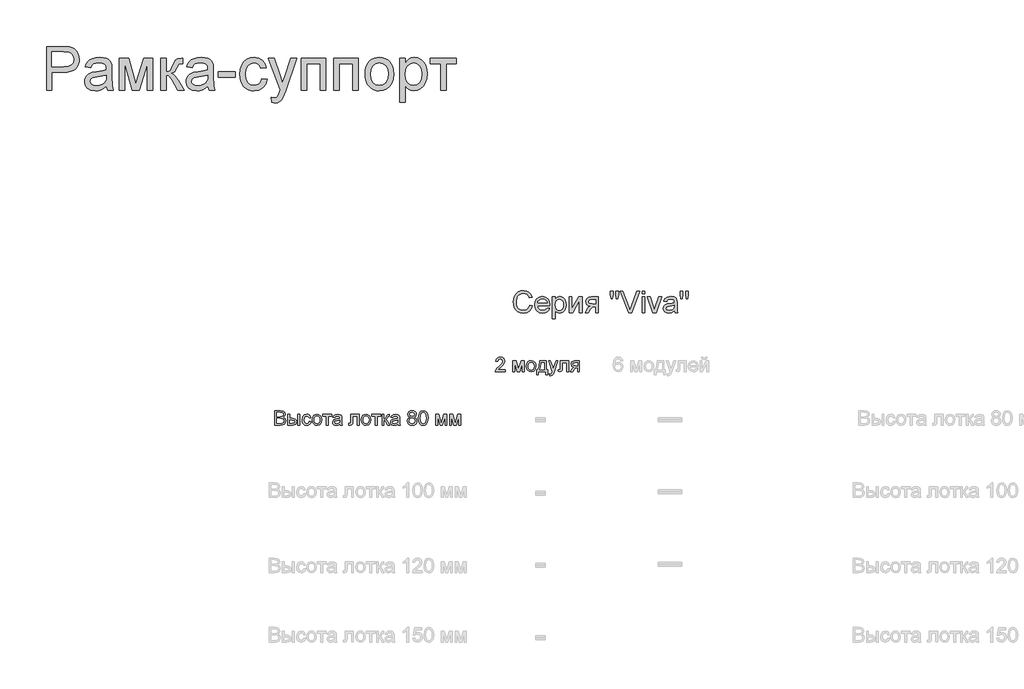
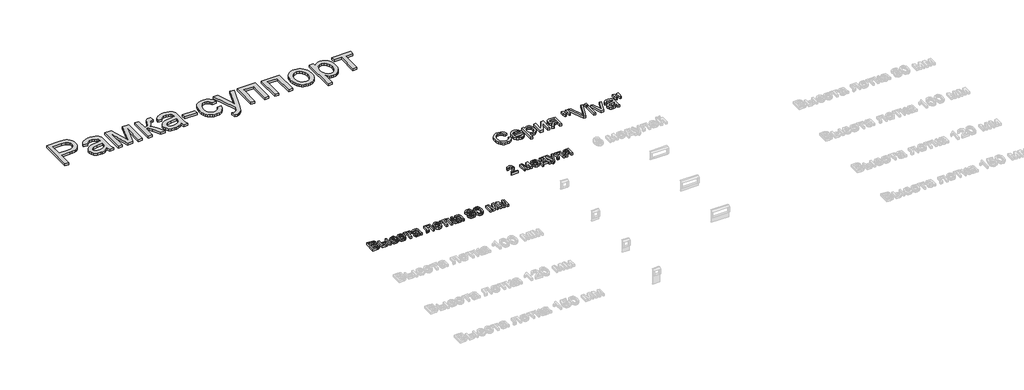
# One storey, part 9 of 28: 4 proxies.
"""IFC4 building model written with IfcOpenShell, lengths in millimetres."""

import ifcopenshell
import ifcopenshell.guid

model = None  # the IFC model being written
_history = None  # IfcOwnerHistory: only IFC2X3 demands one
_inside = {}  # id of a spatial element -> (the spatial element, [elements in it])
_under = {}  # id of a project, library or spatial element -> (it, [spatial elements below it])
_declared = {}  # id of a project -> (the project, [libraries it declares])
_typed = {}  # id of a type object -> (the type object, [elements of that type])
_made_of = {}  # id of a material, layer set ... -> (it, [elements and type objects made of it])


def new_model(schema):
    """Start an empty IFC model of exactly this schema.

    Asked for "IFC4X3", IfcOpenShell would pick the latest addendum, in which some entities
    have other attributes; the version numbers below select the first issue.
    IFC2X3 requires an IfcOwnerHistory on every rooted entity: one is made here for all.
    """
    global model, _history
    if schema == "IFC4X3":
        model = ifcopenshell.file(schema_version=(4, 3, 0, 0))
    else:
        model = ifcopenshell.file(schema=schema)
    _inside.clear()
    _under.clear()
    _declared.clear()
    _typed.clear()
    _made_of.clear()
    _history = None
    if model.schema == "IFC2X3":
        org = make("IfcOrganization", Name="unknown")
        user = make(
            "IfcPersonAndOrganization",
            ThePerson=make("IfcPerson", FamilyName="unknown"),
            TheOrganization=org,
        )
        app = make(
            "IfcApplication",
            ApplicationDeveloper=org,
            Version="unknown",
            ApplicationFullName="unknown",
            ApplicationIdentifier="unknown",
        )
        _history = make(
            "IfcOwnerHistory",
            OwningUser=user,
            OwningApplication=app,
            ChangeAction="ADDED",
            CreationDate=0,
        )
    return model


def make(cls, **values):
    """One entity of the class cls with the attributes given. An attribute that is None is left unset."""
    return model.create_entity(
        cls, **{name: value for name, value in values.items() if value is not None}
    )


def rooted(cls, **values):
    """An entity with a GlobalId (a new one), such as an element, a storey or a relation."""
    return make(cls, GlobalId=ifcopenshell.guid.new(), OwnerHistory=_history, **values)


def si_unit(unit_type, name, prefix=None):
    """IfcSIUnit, for example si_unit("LENGTHUNIT", "METRE", prefix="MILLI")."""
    return make("IfcSIUnit", UnitType=unit_type, Prefix=prefix, Name=name)


def assignment(units):
    """IfcUnitAssignment: the units of a project."""
    return None if units is None else make("IfcUnitAssignment", Units=units)


def point(xyz):
    """IfcCartesianPoint."""
    return None if xyz is None else make("IfcCartesianPoint", Coordinates=xyz)


def direction(xyz):
    """IfcDirection."""
    return None if xyz is None else make("IfcDirection", DirectionRatios=xyz)


def frame(location, z_axis=None, x_axis=None):
    """IfcAxis2Placement3D, a coordinate frame: its origin and axes. An axis left out is left unset."""
    return make(
        "IfcAxis2Placement3D",
        Location=point(location),
        Axis=direction(z_axis),
        RefDirection=direction(x_axis),
    )


def origin():
    """The frame at (0, 0, 0) with its axes left unset."""
    return frame((0.0, 0.0, 0.0))


def origin_with_axes():
    """The frame at (0, 0, 0) with the z axis (0, 0, 1) and the x axis (1, 0, 0) written out."""
    return frame((0.0, 0.0, 0.0), z_axis=(0.0, 0.0, 1.0), x_axis=(1.0, 0.0, 0.0))


def place(relative_to, where):
    """IfcLocalPlacement: puts the frame where relative to a parent placement (None: the world)."""
    return make(
        "IfcLocalPlacement", PlacementRelTo=relative_to, RelativePlacement=where
    )


def context(
    kind, dimensions, precision=None, world=None, true_north=None, identifier=None
):
    """IfcGeometricRepresentationContext, for example the 3D "Model" context."""
    return make(
        "IfcGeometricRepresentationContext",
        ContextIdentifier=identifier,
        ContextType=kind,
        CoordinateSpaceDimension=dimensions,
        Precision=precision,
        WorldCoordinateSystem=world,
        TrueNorth=true_north,
    )


def project(units=None, contexts=None):
    """IfcProject with its units and contexts."""
    return rooted(
        "IfcProject",
        Name="project",
        RepresentationContexts=contexts,
        UnitsInContext=assignment(units),
    )


def spatial(cls, under=None, at=None, **own):
    """A site, building, storey or space (cls), placed at a placement, below another one or the project."""
    s = rooted(cls, ObjectPlacement=at, **own)
    if under is not None:
        _under.setdefault(under.id(), (under, []))[1].append(s)
    return s


def polyline(points):
    """IfcPolyline through the points."""
    return make("IfcPolyline", Points=[point(p) for p in points])


def outline(outer, holes=None, kind="AREA"):
    """IfcArbitraryClosedProfileDef: a profile drawn as a closed curve; with holes, ...WithVoids."""
    if holes is None:
        return make("IfcArbitraryClosedProfileDef", ProfileType=kind, OuterCurve=outer)
    return make(
        "IfcArbitraryProfileDefWithVoids",
        ProfileType=kind,
        OuterCurve=outer,
        InnerCurves=holes,
    )


def extrude(swept, where, along, depth):
    """IfcExtrudedAreaSolid: the profile swept, set in the frame where, extruded along a direction by depth."""
    return make(
        "IfcExtrudedAreaSolid",
        SweptArea=swept,
        Position=where,
        ExtrudedDirection=direction(along),
        Depth=depth,
    )


def shape(context_of_items, identifier, shape_type, items):
    """IfcShapeRepresentation: the items that make up one representation, for example the "Body"."""
    return make(
        "IfcShapeRepresentation",
        ContextOfItems=context_of_items,
        RepresentationIdentifier=identifier,
        RepresentationType=shape_type,
        Items=items,
    )


def made_of(thing, what):
    """Note that an element or type object is made of a material, layer set ...; save() writes the relation."""
    if what is not None:
        _made_of.setdefault(what.id(), (what, []))[1].append(thing)
    return thing


def element(
    cls,
    number,
    at=None,
    inside=None,
    cuts=None,
    type_object=None,
    material=None,
    context=None,
    identifier="Body",
    shape_type=None,
    held_by="IfcProductDefinitionShape",
    body=None,
    shapes=None,
    **own,
):
    """One element of the class cls, such as IfcWall. Its Tag is "e" and its number.

    at: its placement. inside: the storey or other place that contains it. cuts: it is an
    opening in that element (IfcRelVoidsElement). A single representation is given by context,
    identifier, shape_type and body (its items); several are given by shapes. held_by: the class
    of the entity that holds the representations. save() writes the other relations.
    """
    e = rooted(cls, Tag="e%d" % number, ObjectPlacement=at, **own)
    if body is not None:
        shapes = [shape(context, identifier, shape_type, body)]
    if shapes is not None:
        e.Representation = make(held_by, Representations=shapes)
    if inside is not None:
        _inside.setdefault(inside.id(), (inside, []))[1].append(e)
    if cuts is not None:
        rooted(
            "IfcRelVoidsElement", RelatingBuildingElement=cuts, RelatedOpeningElement=e
        )
    if type_object is not None:
        _typed.setdefault(type_object.id(), (type_object, []))[1].append(e)
    return made_of(e, material)


def aggregate(whole, parts):
    """IfcRelAggregates: a whole, such as a stair, and the parts it consists of."""
    return rooted("IfcRelAggregates", RelatingObject=whole, RelatedObjects=parts)


def save(model, path):
    """Write the relations noted so far, then the file.

    IfcRelAggregates (storeys below a building ...), IfcRelContainedInSpatialStructure (elements
    in a storey), IfcRelDefinesByType, IfcRelAssociatesMaterial and IfcRelDeclares: one each for
    every whole, place, type object, material and project.
    """
    for whole, parts in _under.values():
        aggregate(whole, parts)
    for where, things in _inside.values():
        rooted(
            "IfcRelContainedInSpatialStructure",
            RelatedElements=things,
            RelatingStructure=where,
        )
    for kind, things in _typed.values():
        rooted("IfcRelDefinesByType", RelatedObjects=things, RelatingType=kind)
    for what, things in _made_of.values():
        rooted("IfcRelAssociatesMaterial", RelatedObjects=things, RelatingMaterial=what)
    for by, libraries in _declared.values():
        rooted("IfcRelDeclares", RelatingContext=by, RelatedDefinitions=libraries)
    model.write(path)


model = new_model("IFC4")

# Units and contexts
model_context = context("Model", 3, world=origin())
ifc_project = project(units=[si_unit("LENGTHUNIT", "METRE", prefix="MILLI")], contexts=[model_context])

# Site, building, storey
site = spatial("IfcSite", under=ifc_project)
building = spatial("IfcBuilding", under=site)
storey = spatial("IfcBuildingStorey", under=building, Name="Этаж 01", Elevation=0.0)

# Proxies
placement = place(None, origin())
element("IfcBuildingElementProxy", 1, Name="300 мм Arial", ObjectType="300 мм Arial", at=placement, inside=storey, context=model_context, shape_type="SweptSolid", body=[
    extrude(outline(polyline([(296.4597567, -9649.131136), (296.4597567, -9347.7622056), (408.1487305, -9347.7622056), (453.1774867, -9350.6316851), (473.2546466, -9355.9935652), (489.7817452, -9364.7215655), (503.0898764, -9377.2111593), (513.5101339, -9393.8578196), (520.2423744, -9413.4935211), (522.4864546, -9434.9502384), (520.9712406, -9453.4501043), (516.4255987, -9470.4692451), (508.8495289, -9486.0076608), (498.2430311, -9500.0653516), (483.6818019, -9511.7180138), (464.2415377, -9520.0413439), (439.9222385, -9525.035342), (410.7239044, -9526.700008), (334.130873, -9526.700008), (334.130873, -9649.131136), (296.4597567, -9649.131136)]), holes=[polyline([(334.130873, -9489.0288917), (412.9311964, -9489.0288917), (446.3348816, -9485.570801), (468.4078013, -9475.1965287), (480.713454, -9458.5498684), (484.8153383, -9436.2746136), (482.3965141, -9419.3520418), (475.1400418, -9405.0782204), (463.9472321, -9394.3360662), (449.7193959, -9388.0084958), (412.0482796, -9385.4333219), (334.130873, -9385.4333219), (334.130873, -9489.0288917)])]), origin_with_axes(), (0.0, 0.0, 1.0), 20.0),
    extrude(outline(polyline([(710.8420361, -9620.8777988), (692.8434095, -9636.3104485), (674.311354, -9646.4088092), (654.8228053, -9651.9822215), (633.9546991, -9653.8400256), (602.4731974, -9649.3702593), (579.2506464, -9635.9609606), (564.9308398, -9615.5986922), (560.1575709, -9590.2700168), (561.9601926, -9574.6534261), (567.368058, -9560.4715752), (575.7097822, -9548.3314693), (586.3139807, -9538.8401139), (612.6911198, -9526.4792788), (645.2854646, -9520.8138961), (683.8027094, -9514.8542078), (710.6213069, -9507.8644499), (710.8420361, -9499.4767404), (708.248468, -9482.6645332), (700.4677638, -9471.6648615), (683.0669455, -9463.4978812), (658.823522, -9460.7755545), (636.3827203, -9462.5873733), (620.7109473, -9468.0228298), (610.0239753, -9478.0752053), (602.5375767, -9493.7377813), (564.8664604, -9489.0288917), (571.4055629, -9468.4275), (581.1636328, -9452.2406922), (595.0511781, -9439.8614631), (613.9787068, -9430.6828073), (637.1276813, -9424.9990305), (663.6795643, -9423.1044382), (689.1461954, -9424.7783013), (709.3337199, -9429.7998905), (724.5548375, -9437.3506684), (735.1222478, -9446.6120977), (742.1303998, -9458.0624248), (746.6737424, -9472.1798963), (748.5131524, -9505.1421231), (748.5131524, -9552.0102893), (750.4261388, -9617.4564962), (757.9309315, -9649.131136), (720.2598152, -9649.131136), (710.8420361, -9620.8777988)]), holes=[polyline([(710.8420361, -9545.5355662), (650.0679305, -9557.0870608), (617.6575267, -9563.1939019), (602.9790351, -9573.1267158), (597.8286872, -9587.6212664), (600.6337874, -9598.8232732), (609.049088, -9608.001929), (622.8906481, -9614.1271642), (641.9745266, -9616.1689092), (662.2080363, -9613.915632), (680.0871013, -9607.1558004), (694.5816519, -9597.1953953), (704.6616186, -9585.3403981), (709.1313848, -9573.1267158), (710.6213069, -9556.204144), (710.8420361, -9545.5355662)])]), origin_with_axes(), (0.0, 0.0, 1.0), 20.0),
    extrude(outline(polyline([(800.3109373, -9427.8133277), (865.1317449, -9427.8133277), (915.0901198, -9604.9852966), (968.9480439, -9427.8133277), (1031.0465247, -9427.8133277), (1031.0465247, -9649.131136), (993.3754084, -9649.131136), (993.3754084, -9470.9290976), (939.2231787, -9649.131136), (889.7798385, -9649.131136), (837.9820536, -9462.3942353), (837.9820536, -9649.131136), (800.3109373, -9649.131136), (800.3109373, -9427.8133277)])), origin_with_axes(), (0.0, 0.0, 1.0), 20.0),
    extrude(outline(polyline([(1087.5531992, -9427.8133277), (1125.2243155, -9427.8133277), (1125.2243155, -9521.9911185), (1140.5466006, -9520.2988613), (1150.4610203, -9515.2220898), (1159.2350059, -9501.9783379), (1171.1359885, -9475.7851399), (1188.3160776, -9441.7560553), (1203.4728158, -9430.6828073), (1231.0271773, -9427.8133277), (1238.2376644, -9427.8133277), (1238.2376644, -9465.7051732), (1228.0841213, -9465.484444), (1209.6900216, -9469.4575696), (1196.7405753, -9494.252816), (1181.5470489, -9521.0714135), (1160.2466814, -9534.2048007), (1172.1844521, -9539.5069), (1184.0118583, -9548.8648982), (1207.3355768, -9579.7485917), (1247.6554435, -9649.131136), (1204.8339792, -9649.131136), (1165.3234529, -9581.2201197), (1145.4578252, -9552.4885359), (1136.1688048, -9547.2738086), (1125.2243155, -9545.5355662), (1125.2243155, -9649.131136), (1087.5531992, -9649.131136), (1087.5531992, -9427.8133277)])), origin_with_axes(), (0.0, 0.0, 1.0), 20.0),
    extrude(outline(polyline([(1412.4665773, -9620.8777988), (1394.4679507, -9636.3104485), (1375.9358952, -9646.4088092), (1356.4473465, -9651.9822215), (1335.5792403, -9653.8400256), (1304.0977386, -9649.3702593), (1280.8751876, -9635.9609606), (1266.555381, -9615.5986922), (1261.7821121, -9590.2700168), (1263.5847338, -9574.6534261), (1268.9925992, -9560.4715752), (1277.3343234, -9548.3314693), (1287.9385219, -9538.8401139), (1314.315661, -9526.4792788), (1346.9100058, -9520.8138961), (1385.4272507, -9514.8542078), (1412.2458481, -9507.8644499), (1412.4665773, -9499.4767404), (1409.8730092, -9482.6645332), (1402.092305, -9471.6648615), (1384.6914867, -9463.4978812), (1360.4480632, -9460.7755545), (1338.0072615, -9462.5873733), (1322.3354885, -9468.0228298), (1311.6485165, -9478.0752053), (1304.1621179, -9493.7377813), (1266.4910016, -9489.0288917), (1273.0301041, -9468.4275), (1282.788174, -9452.2406922), (1296.6757193, -9439.8614631), (1315.603248, -9430.6828073), (1338.7522225, -9424.9990305), (1365.3041055, -9423.1044382), (1390.7707366, -9424.7783013), (1410.9582611, -9429.7998905), (1426.1793787, -9437.3506684), (1436.746789, -9446.6120977), (1443.754941, -9458.0624248), (1448.2982836, -9472.1798963), (1450.1376936, -9505.1421231), (1450.1376936, -9552.0102893), (1452.05068, -9617.4564962), (1459.5554727, -9649.131136), (1421.8843564, -9649.131136), (1412.4665773, -9620.8777988)]), holes=[polyline([(1412.4665773, -9545.5355662), (1351.6924717, -9557.0870608), (1319.2820679, -9563.1939019), (1304.6035763, -9573.1267158), (1299.4532284, -9587.6212664), (1302.2583286, -9598.8232732), (1310.6736292, -9608.001929), (1324.5151893, -9614.1271642), (1343.5990678, -9616.1689092), (1363.8325775, -9613.915632), (1381.7116425, -9607.1558004), (1396.2061931, -9597.1953953), (1406.2861598, -9585.3403981), (1410.755926, -9573.1267158), (1412.2458481, -9556.204144), (1412.4665773, -9545.5355662)])]), origin_with_axes(), (0.0, 0.0, 1.0), 20.0),
    extrude(outline(polyline([(1483.0999204, -9559.6622348), (1483.0999204, -9521.9911185), (1600.8221588, -9521.9911185), (1600.8221588, -9559.6622348), (1483.0999204, -9559.6622348)])), origin_with_axes(), (0.0, 0.0, 1.0), 20.0),
    extrude(outline(polyline([(1784.4688508, -9569.0800139), (1822.1399671, -9573.7889034), (1811.6369362, -9607.2937561), (1791.9000671, -9632.6132344), (1764.7871641, -9648.5333278), (1732.1560311, -9653.8400256), (1711.0281083, -9651.9891193), (1692.0844848, -9646.4364004), (1675.3251606, -9637.181869), (1660.7501358, -9624.2255249), (1648.9526201, -9607.8110902), (1640.5258232, -9588.1822865), (1635.469745, -9565.3391138), (1633.7843856, -9539.2815723), (1636.6630622, -9505.7583254), (1645.299092, -9476.7048449), (1659.8304309, -9453.2431706), (1680.3950344, -9436.4953428), (1704.9971428, -9426.4521643), (1731.6409963, -9423.1044382), (1763.4719859, -9427.7029631), (1788.920223, -9441.4985379), (1807.176367, -9463.7553986), (1817.4310776, -9493.7377813), (1779.7599613, -9498.4466708), (1772.9265532, -9482.0115427), (1762.2855665, -9470.2301218), (1748.4256123, -9463.1391963), (1731.9353019, -9460.7755545), (1707.5907109, -9465.4292617), (1688.2677091, -9479.3903834), (1675.6585537, -9503.4130777), (1671.4555019, -9538.2515027), (1675.5665832, -9573.5589772), (1687.8998271, -9597.6644449), (1706.873341, -9611.5427932), (1730.9052323, -9616.1689092), (1750.4121751, -9613.2810356), (1766.4058449, -9604.6174146), (1778.040113, -9589.9573171), (1784.4688508, -9569.0800139)])), origin_with_axes(), (0.0, 0.0, 1.0), 20.0),
    extrude(outline(polyline([(1855.1021939, -9733.8911477), (1850.3933044, -9697.617983), (1869.5231681, -9700.9289209), (1887.4022331, -9696.7718544), (1898.3651165, -9685.1835715), (1908.6658124, -9657.4452691), (1911.6088684, -9648.3217956), (1831.5577462, -9427.8133277), (1871.2890017, -9427.8133277), (1913.7425839, -9550.6859141), (1928.5314401, -9599.8349487), (1943.3202963, -9556.4248732), (1986.951101, -9427.8133277), (2026.3880508, -9427.8133277), (1949.3535611, -9654.4286367), (1929.3407805, -9703.5776713), (1919.095267, -9719.2678384), (1907.48859, -9730.1387514), (1894.0057149, -9736.4847158), (1878.1316068, -9738.6000372), (1855.1021939, -9733.8911477)])), origin_with_axes(), (0.0, 0.0, 1.0), 20.0),
    extrude(outline(polyline([(2057.584444, -9427.8133277), (2227.1044674, -9427.8133277), (2227.1044674, -9649.131136), (2189.4333511, -9649.131136), (2189.4333511, -9465.484444), (2095.2555603, -9465.484444), (2095.2555603, -9649.131136), (2057.584444, -9649.131136), (2057.584444, -9427.8133277)])), origin_with_axes(), (0.0, 0.0, 1.0), 20.0),
    extrude(outline(polyline([(2283.6111419, -9427.8133277), (2453.1311653, -9427.8133277), (2453.1311653, -9649.131136), (2415.4600489, -9649.131136), (2415.4600489, -9465.484444), (2321.2822582, -9465.484444), (2321.2822582, -9649.131136), (2283.6111419, -9649.131136), (2283.6111419, -9427.8133277)])), origin_with_axes(), (0.0, 0.0, 1.0), 20.0),
    extrude(outline(polyline([(2500.2200606, -9538.4722319), (2502.2572072, -9509.8096259), (2508.3686468, -9485.1109485), (2518.5543796, -9464.3761995), (2532.8144054, -9447.6053791), (2547.1710003, -9436.8862174), (2563.0175172, -9429.2296734), (2580.3539562, -9424.635747), (2599.1803173, -9423.1044382), (2619.9633508, -9424.96914), (2638.755223, -9430.5632456), (2655.5559338, -9439.8867549), (2670.3654834, -9452.939668), (2682.4527062, -9469.2805264), (2691.0864368, -9488.4678717), (2696.2666751, -9510.5017039), (2697.9934212, -9535.3820231), (2694.9400007, -9573.4394155), (2685.779739, -9602.4101226), (2670.7793506, -9624.1059633), (2650.2055501, -9640.3387563), (2625.7689885, -9650.4647082), (2599.1803173, -9653.8400256), (2578.0937812, -9651.9822215), (2559.1271651, -9646.4088092), (2542.280469, -9637.1197889), (2527.5536929, -9624.1151603), (2515.5952288, -9607.6156529), (2507.0534687, -9587.8419956), (2501.9284126, -9564.7941886), (2500.2200606, -9538.4722319)]), holes=[polyline([(2537.8911769, -9538.3986555), (2542.2505786, -9572.4921194), (2555.3287835, -9596.7815281), (2575.0104703, -9611.322064), (2599.1803173, -9616.1689092), (2623.2397998, -9611.2944728), (2642.8846984, -9596.6711635), (2655.9629033, -9572.059858), (2660.3223049, -9537.2214331), (2655.9353121, -9504.1212506), (2642.7743338, -9480.1629356), (2623.1018441, -9465.6223998), (2599.1803173, -9460.7755545), (2575.0104703, -9465.6040057), (2555.3287835, -9480.0893592), (2542.2505786, -9504.3235857), (2537.8911769, -9538.3986555)])]), origin_with_axes(), (0.0, 0.0, 1.0), 20.0),
    extrude(outline(polyline([(2740.3734271, -9733.8911477), (2740.3734271, -9427.8133277), (2778.0445434, -9427.8133277), (2778.0445434, -9464.74868), (2790.331802, -9446.5293242), (2804.0905887, -9433.5154986), (2820.1302436, -9425.7072033), (2839.2601074, -9423.1044382), (2864.7359356, -9426.7464699), (2887.0111904, -9437.6725652), (2905.1477727, -9455.2205364), (2918.2075836, -9478.7281958), (2926.0986524, -9506.4848924), (2928.7290086, -9536.7799747), (2925.7583615, -9568.9972404), (2916.8464202, -9597.8115977), (2902.2782932, -9621.7607156), (2882.339089, -9639.3822631), (2859.1165381, -9650.2255849), (2834.6983706, -9653.8400256), (2817.3803257, -9651.4212014), (2801.9200849, -9644.1647291), (2788.6855301, -9633.2110427), (2778.0445434, -9619.7005764), (2778.0445434, -9733.8911477), (2740.3734271, -9733.8911477)]), holes=[polyline([(2778.0445434, -9540.2380654), (2782.1188365, -9574.0096326), (2794.3417158, -9597.6276567), (2812.3771306, -9611.5335961), (2833.8890303, -9616.1689092), (2855.7504178, -9611.3680492), (2874.2456851, -9596.9654691), (2886.8548405, -9572.4829223), (2891.0578923, -9537.4421623), (2886.9560081, -9503.8545361), (2874.6503553, -9479.9054182), (2856.6425317, -9465.5580204), (2835.4341346, -9460.7755545), (2814.1429642, -9465.8615231), (2795.4453618, -9481.1194288), (2782.394748, -9506.0710251), (2778.0445434, -9540.2380654)])]), origin_with_axes(), (0.0, 0.0, 1.0), 20.0),
    extrude(outline(polyline([(2952.2734563, -9427.8133277), (3131.2112588, -9427.8133277), (3131.2112588, -9465.484444), (3060.5779157, -9465.484444), (3060.5779157, -9649.131136), (3022.9067994, -9649.131136), (3022.9067994, -9465.484444), (2952.2734563, -9465.484444), (2952.2734563, -9427.8133277)])), origin_with_axes(), (0.0, 0.0, 1.0), 20.0),
])
element("IfcBuildingElementProxy", 2, Name="150 мм Arial", ObjectType="150 мм Arial", at=placement, inside=storey, context=model_context, shape_type="SweptSolid", body=[
    extrude(outline(polyline([(3638.4020655, -11135.8364404), (3657.2376237, -11140.6924828), (3648.5464115, -11162.6412423), (3634.9071866, -11178.6762988), (3616.9913334, -11188.4849525), (3595.4702367, -11191.7545037), (3573.6226447, -11189.2804973), (3556.2724101, -11181.858478), (3542.973476, -11169.7459633), (3533.2797854, -11153.2004706), (3527.3614838, -11133.7487101), (3525.3887166, -11112.9173921), (3527.6190012, -11090.94564), (3534.309855, -11071.9721261), (3545.1117901, -11056.5992572), (3559.6753185, -11045.4294401), (3576.9473782, -11038.6282217), (3595.8749069, -11036.3611489), (3616.5268824, -11039.2950079), (3633.6012055, -11048.0965846), (3646.5644473, -11062.2232532), (3654.8831789, -11081.1323878), (3636.0476207, -11085.6205481), (3629.5177153, -11071.8847541), (3620.5965769, -11062.4623765), (3609.173841, -11057.0131245), (3595.1391429, -11055.1967071), (3578.9615321, -11057.210861), (3565.6717951, -11063.2533228), (3555.5872299, -11072.689496), (3549.0251348, -11084.8847841), (3544.2242747, -11112.8806039), (3545.6452189, -11130.2814223), (3549.9080516, -11145.3277959), (3557.173721, -11157.4449091), (3567.6031755, -11166.0579463), (3580.1065648, -11171.2036958), (3593.5940385, -11172.9189456), (3609.3163953, -11170.5828949), (3622.4175928, -11163.5747429), (3632.30902, -11151.9680659), (3638.4020655, -11135.8364404)])), origin_with_axes(), (0.0, 0.0, 1.0), 20.0),
    extrude(outline(polyline([(3758.2580195, -11156.4378322), (3776.7256957, -11158.7922769), (3770.0716301, -11172.7074134), (3759.453636, -11183.1092768), (3745.1108367, -11189.593197), (3727.2823555, -11191.7545037), (3705.1818447, -11188.0251), (3688.1764995, -11176.8368888), (3677.3331776, -11158.9164371), (3673.718737, -11134.9903119), (3677.3699658, -11110.2594447), (3688.3236523, -11091.7641774), (3705.0990712, -11080.2310769), (3726.2154978, -11076.38671), (3746.6743352, -11080.2218798), (3763.0220914, -11091.7273892), (3773.741253, -11110.1858683), (3777.3143069, -11134.8799473), (3777.2039423, -11139.9567188), (3692.5542952, -11139.9567188), (3695.8146494, -11154.0557963), (3703.38842, -11164.4208715), (3714.3191137, -11170.794427), (3727.6502375, -11172.9189456), (3746.1179137, -11168.9826082), (3758.2580195, -11156.4378322)]), holes=[polyline([(3692.5542952, -11121.1211606), (3758.4787487, -11121.1211606), (3755.9311659, -11111.1699527), (3750.9371678, -11104.0514361), (3739.9558903, -11097.4295601), (3726.1419214, -11095.2222682), (3713.445394, -11096.9835032), (3702.9469616, -11102.2672084), (3695.6491025, -11110.5031666), (3692.5542952, -11121.1211606)])]), origin_with_axes(), (0.0, 0.0, 1.0), 20.0),
    extrude(outline(polyline([(3796.149865, -11231.7800648), (3796.149865, -11078.7411548), (3814.9854232, -11078.7411548), (3814.9854232, -11097.208831), (3828.0084458, -11081.5922403), (3845.5932052, -11076.38671), (3858.3311193, -11078.2077259), (3869.4687467, -11083.6707735), (3878.5370379, -11092.4447591), (3885.0669433, -11104.1985889), (3890.3276558, -11133.2244783), (3888.8423322, -11149.3331111), (3884.3863616, -11163.7402898), (3877.1022981, -11175.7148487), (3867.132696, -11184.5256225), (3855.5214205, -11189.9472834), (3843.3123368, -11191.7545037), (3826.9231939, -11186.9168555), (3814.9854232, -11174.6847791), (3814.9854232, -11231.7800648), (3796.149865, -11231.7800648)]), holes=[polyline([(3814.9854232, -11134.9535237), (3817.0225697, -11151.8393072), (3823.1340094, -11163.6483193), (3832.1517168, -11170.601289), (3842.9076666, -11172.9189456), (3853.8383604, -11170.5185155), (3863.0859941, -11163.3172255), (3869.3905718, -11151.0759521), (3871.4920976, -11133.5555721), (3869.4411555, -11116.761759), (3863.2883292, -11104.7872001), (3854.2844173, -11097.6135011), (3843.6802188, -11095.2222682), (3833.0346336, -11097.7652525), (3823.6858324, -11105.3942053), (3817.1605255, -11117.8700035), (3814.9854232, -11134.9535237)])]), origin_with_axes(), (0.0, 0.0, 1.0), 20.0),
    extrude(outline(polyline([(3911.5176587, -11078.7411548), (3930.3532169, -11078.7411548), (3930.3532169, -11163.1332845), (3976.6327719, -11078.7411548), (4000.98656, -11078.7411548), (4000.98656, -11189.4000589), (3982.1510018, -11189.4000589), (3982.1510018, -11105.522964), (3936.1657524, -11189.4000589), (3911.5176587, -11189.4000589), (3911.5176587, -11078.7411548)])), origin_with_axes(), (0.0, 0.0, 1.0), 20.0),
    extrude(outline(polyline([(4113.9999089, -11078.7411548), (4113.9999089, -11189.4000589), (4095.1643507, -11189.4000589), (4095.1643507, -11147.0200531), (4084.9004431, -11147.0200531), (4070.9209272, -11149.4112861), (4057.78754, -11165.4877293), (4042.7779546, -11189.4000589), (4020.9993405, -11189.4000589), (4039.908475, -11159.1601589), (4048.2593963, -11148.3076401), (4055.94813, -11143.4883859), (4043.0722602, -11139.5428515), (4034.0223631, -11132.0472559), (4028.6696801, -11122.0776538), (4026.8854524, -11110.7101002), (4029.3226706, -11097.8158362), (4036.6343253, -11087.6071109), (4048.562899, -11080.9576438), (4064.8508743, -11078.7411548), (4113.9999089, -11078.7411548)]), holes=[polyline([(4095.1643507, -11097.5767129), (4070.332316, -11097.5767129), (4057.50703, -11098.6665634), (4050.227565, -11101.9361146), (4045.7210106, -11112.14484), (4047.3810781, -11119.3231374), (4052.3612806, -11124.3033399), (4075.8873342, -11128.1844949), (4095.1643507, -11128.1844949), (4095.1643507, -11097.5767129)])]), origin_with_axes(), (0.0, 0.0, 1.0), 20.0),
    extrude(outline(polyline([(4201.0040007, -11092.8678234), (4196.4054758, -11063.7683576), (4196.4054758, -11038.7155937), (4215.2410339, -11038.7155937), (4215.2410339, -11063.7683576), (4211.1207556, -11092.8678234), (4201.0040007, -11092.8678234)])), origin_with_axes(), (0.0, 0.0, 1.0), 20.0),
    extrude(outline(polyline([(4238.5647524, -11092.8678234), (4234.0765921, -11063.7683576), (4234.0765921, -11038.7155937), (4252.9121502, -11038.7155937), (4252.9121502, -11063.7683576), (4248.4975663, -11092.8678234), (4238.5647524, -11092.8678234)])), origin_with_axes(), (0.0, 0.0, 1.0), 20.0),
    extrude(outline(polyline([(4323.3247641, -11189.4000589), (4263.3599989, -11038.7155937), (4283.5199322, -11038.7155937), (4323.6558579, -11147.2775705), (4331.78605, -11171.7417232), (4339.8058775, -11147.2775705), (4380.0521678, -11038.7155937), (4400.2121011, -11038.7155937), (4342.7857217, -11189.4000589), (4323.3247641, -11189.4000589)])), origin_with_axes(), (0.0, 0.0, 1.0), 20.0),
    extrude(outline(polyline([(4415.3688393, -11057.5511519), (4415.3688393, -11038.7155937), (4434.2043975, -11038.7155937), (4434.2043975, -11057.5511519), (4415.3688393, -11057.5511519)])), origin_with_axes(), (0.0, 0.0, 1.0), 20.0),
    extrude(outline(polyline([(4415.3688393, -11189.4000589), (4415.3688393, -11078.7411548), (4434.2043975, -11078.7411548), (4434.2043975, -11189.4000589), (4415.3688393, -11189.4000589)])), origin_with_axes(), (0.0, 0.0, 1.0), 20.0),
    extrude(outline(polyline([(4489.6074259, -11189.4000589), (4450.6855109, -11078.7411548), (4470.624715, -11078.7411548), (4494.2059509, -11145.0334903), (4501.3060734, -11167.3271392), (4508.2590431, -11146.2842891), (4531.9874318, -11078.7411548), (4551.9266359, -11078.7411548), (4513.4829674, -11189.4000589), (4489.6074259, -11189.4000589)])), origin_with_axes(), (0.0, 0.0, 1.0), 20.0),
    extrude(outline(polyline([(4639.0410924, -11175.2733903), (4620.7757513, -11188.0388956), (4600.5974239, -11191.7545037), (4584.856673, -11189.5196206), (4573.2453975, -11182.8149712), (4566.0854942, -11172.633837), (4563.6988598, -11159.9694993), (4567.3041033, -11145.0702785), (4576.7770647, -11134.2545479), (4589.9656342, -11128.0741303), (4606.2628066, -11125.241439), (4638.9307278, -11118.7667159), (4639.0410924, -11114.5728611), (4637.7443084, -11106.1667575), (4633.8539563, -11100.6669217), (4625.1535471, -11096.5834316), (4613.0318353, -11095.2222682), (4593.975548, -11098.8459058), (4584.8888627, -11111.7033816), (4566.0533045, -11109.3489368), (4574.2018907, -11090.954837), (4590.6094277, -11080.1758946), (4615.4598565, -11076.38671), (4638.2869343, -11079.7344362), (4651.1811982, -11088.1405398), (4656.9569456, -11100.9244391), (4657.8766505, -11117.4055525), (4657.8766505, -11140.8396356), (4658.8331437, -11173.562739), (4662.5855401, -11189.4000589), (4643.7499819, -11189.4000589), (4639.0410924, -11175.2733903)]), holes=[polyline([(4639.0410924, -11137.602274), (4608.6540396, -11143.3780213), (4592.4488377, -11146.4314419), (4585.1095919, -11151.3978488), (4582.5344179, -11158.6451241), (4588.1446184, -11168.8354554), (4604.6073376, -11172.9189456), (4623.663625, -11168.4123911), (4635.9508836, -11157.50469), (4638.9307278, -11142.936563), (4639.0410924, -11137.602274)])]), origin_with_axes(), (0.0, 0.0, 1.0), 20.0),
    extrude(outline(polyline([(4683.6651784, -11092.8678234), (4679.0666535, -11063.7683576), (4679.0666535, -11038.7155937), (4697.9022116, -11038.7155937), (4697.9022116, -11063.7683576), (4693.7819333, -11092.8678234), (4683.6651784, -11092.8678234)])), origin_with_axes(), (0.0, 0.0, 1.0), 20.0),
    extrude(outline(polyline([(4721.2259301, -11092.8678234), (4716.7377698, -11063.7683576), (4716.7377698, -11038.7155937), (4735.5733279, -11038.7155937), (4735.5733279, -11063.7683576), (4731.158744, -11092.8678234), (4721.2259301, -11092.8678234)])), origin_with_axes(), (0.0, 0.0, 1.0), 20.0),
])
element("IfcBuildingElementProxy", 3, Name="100 мм Arial", ObjectType="100 мм Arial", at=placement, inside=storey, context=model_context, shape_type="SweptSolid", body=[
    extrude(outline(polyline([(1875.5247749, -11966.5703412), (1875.5247749, -11866.114031), (1913.8580788, -11866.114031), (1932.6323233, -11869.0693497), (1943.7178341, -11878.156035), (1947.7277478, -11891.0073794), (1944.3554962, -11902.742815), (1934.165165, -11911.6332966), (1946.5382627, -11921.0020247), (1950.8670075, -11936.6247468), (1947.9116888, -11950.126016), (1940.5908371, -11959.7399988), (1929.6647419, -11964.8412958), (1913.5637732, -11966.5703412), (1875.5247749, -11966.5703412)]), holes=[polyline([(1888.0818137, -11906.924407), (1911.0131247, -11906.924407), (1924.4040294, -11905.8452865), (1932.460645, -11901.1977106), (1935.1707091, -11893.0184676), (1932.644586, -11884.8269619), (1925.4095735, -11879.9831823), (1909.2718166, -11878.6710698), (1888.0818137, -11878.6710698), (1888.0818137, -11906.924407)]), polyline([(1888.0818137, -11954.0133024), (1913.8335534, -11954.0133024), (1923.1532306, -11953.5227931), (1931.038168, -11950.7882036), (1936.2620923, -11945.20866), (1938.3099688, -11936.7473741), (1935.9064731, -11926.9862385), (1928.1196375, -11921.1614402), (1912.60728, -11919.4814458), (1888.0818137, -11919.4814458), (1888.0818137, -11954.0133024)])]), origin_with_axes(), (0.0, 0.0, 1.0), 20.0),
    extrude(outline(polyline([(2035.6270192, -11892.7977384), (2048.184058, -11892.7977384), (2048.184058, -11966.5703412), (2035.6270192, -11966.5703412), (2035.6270192, -11892.7977384)])), origin_with_axes(), (0.0, 0.0, 1.0), 20.0),
    extrude(outline(polyline([(1966.563306, -11892.7977384), (1979.1203448, -11892.7977384), (1979.1203448, -11919.4814458), (1994.644965, -11919.4814458), (2008.0634607, -11921.0541413), (2018.0054717, -11925.7722279), (2024.158298, -11933.2555608), (2026.2092401, -11943.1239954), (2024.4893918, -11952.1095131), (2019.3298468, -11959.6909479), (2010.39338, -11964.8504929), (1997.3427663, -11966.5703412), (1966.563306, -11966.5703412), (1966.563306, -11892.7977384)]), holes=[polyline([(1979.1203448, -11954.0133024), (1992.0207401, -11954.0133024), (2008.6735317, -11951.3768148), (2013.6522014, -11943.1485208), (2009.9611187, -11935.4229989), (1993.6639463, -11932.0384846), (1979.1203448, -11932.0384846), (1979.1203448, -11954.0133024)])]), origin_with_axes(), (0.0, 0.0, 1.0), 20.0),
    extrude(outline(polyline([(2114.1085115, -11939.8866338), (2126.6655503, -11941.4562636), (2123.16454, -11952.6245479), (2116.5855836, -11961.064374), (2107.5479493, -11966.3710718), (2096.670905, -11968.139971), (2083.3137229, -11965.672096), (2072.8689399, -11958.2684708), (2066.1275023, -11946.254058), (2063.8803565, -11929.9538199), (2067.7185919, -11909.0949108), (2079.4172394, -11895.6917434), (2096.4992267, -11891.2281086), (2107.1095566, -11892.7609502), (2115.5923022, -11897.3594752), (2121.6776836, -11904.7784287), (2125.0959205, -11914.7725563), (2112.5388817, -11916.3421861), (2106.7140834, -11906.9366698), (2096.5973286, -11903.7851473), (2088.4824649, -11905.3363831), (2082.0414643, -11909.9900903), (2077.8384125, -11917.9976551), (2076.4373952, -11929.6104634), (2077.8077557, -11941.3796216), (2081.918837, -11949.4147775), (2088.2433416, -11954.0408936), (2096.253972, -11955.5829323), (2108.0875095, -11951.732434), (2114.1085115, -11939.8866338)])), origin_with_axes(), (0.0, 0.0, 1.0), 20.0),
    extrude(outline(polyline([(2134.5136995, -11929.6840398), (2137.2298949, -11911.8969453), (2145.3784811, -11899.3950889), (2155.4461851, -11893.2698536), (2167.5004518, -11891.2281086), (2180.692087, -11893.7143777), (2191.2288405, -11901.1731852), (2198.1358249, -11913.0159197), (2200.4381531, -11928.6539702), (2196.3669257, -11950.9966701), (2184.5088627, -11963.639548), (2167.5004518, -11968.139971), (2154.149401, -11965.6628989), (2143.6249103, -11958.2316826), (2136.7915022, -11946.1406277), (2134.5136995, -11929.6840398)]), holes=[polyline([(2147.0707383, -11929.6595143), (2148.5238722, -11941.0240023), (2152.8832738, -11949.1204719), (2159.4438361, -11953.9673172), (2167.5004518, -11955.5829323), (2175.5202793, -11953.9581201), (2182.0685788, -11949.0836837), (2186.4279804, -11940.8799152), (2187.8811143, -11929.2671069), (2186.4187834, -11918.2337127), (2182.0317906, -11910.2476077), (2175.474294, -11905.4007624), (2167.5004518, -11903.7851473), (2159.4438361, -11905.3946311), (2152.8832738, -11910.2230823), (2148.5238722, -11918.3011577), (2147.0707383, -11929.6595143)])]), origin_with_axes(), (0.0, 0.0, 1.0), 20.0),
    extrude(outline(polyline([(2208.2863023, -11892.7977384), (2267.9322364, -11892.7977384), (2267.9322364, -11905.3547772), (2244.3877888, -11905.3547772), (2244.3877888, -11966.5703412), (2231.83075, -11966.5703412), (2231.83075, -11905.3547772), (2208.2863023, -11905.3547772), (2208.2863023, -11892.7977384)])), origin_with_axes(), (0.0, 0.0, 1.0), 20.0),
    extrude(outline(polyline([(2326.0085408, -11957.1525621), (2313.8316467, -11965.6628989), (2300.3794284, -11968.139971), (2289.8855945, -11966.6500489), (2282.1447442, -11962.1802827), (2277.3714753, -11955.3928599), (2275.7803857, -11946.9499681), (2278.1838814, -11937.0171542), (2284.499189, -11929.8066671), (2293.2915686, -11925.6863888), (2304.1563502, -11923.7979279), (2325.9349644, -11919.4814458), (2326.0085408, -11916.6855426), (2322.55045, -11907.4149164), (2308.669036, -11903.7851473), (2295.9648445, -11906.2009058), (2289.9070543, -11914.7725563), (2277.3500155, -11913.2029264), (2282.7824063, -11900.9401932), (2293.7207643, -11893.7542316), (2310.2877168, -11891.2281086), (2325.5057687, -11893.459926), (2334.1019446, -11899.0639951), (2337.9524429, -11907.5865946), (2338.5655795, -11918.5740035), (2338.5655795, -11934.1967256), (2339.2032416, -11956.0121279), (2341.7048392, -11966.5703412), (2329.1478004, -11966.5703412), (2326.0085408, -11957.1525621)]), holes=[polyline([(2326.0085408, -11932.0384846), (2305.7505056, -11935.8889828), (2294.9470376, -11937.9245965), (2290.0542071, -11941.2355344), (2288.3374244, -11946.0670513), (2292.0775581, -11952.8606055), (2303.0527043, -11955.5829323), (2315.7568958, -11952.5785626), (2323.9484016, -11945.3067619), (2325.9349644, -11935.5946772), (2326.0085408, -11932.0384846)])]), origin_with_axes(), (0.0, 0.0, 1.0), 20.0),
    extrude(outline(polyline([(2401.3507734, -11892.7977384), (2457.8574478, -11892.7977384), (2457.8574478, -11966.4967648), (2445.3004091, -11966.4967648), (2445.3004091, -11905.3547772), (2413.9078121, -11905.3547772), (2413.9078121, -11940.5488214), (2413.0616835, -11956.7846801), (2408.4141077, -11963.639548), (2397.4266987, -11966.5703412), (2387.2241047, -11965.9326791), (2387.2241047, -11954.0133024), (2392.8404365, -11954.0133024), (2398.518082, -11953.2407502), (2400.7866876, -11950.7882036), (2401.3507734, -11939.8375829), (2401.3507734, -11892.7977384)])), origin_with_axes(), (0.0, 0.0, 1.0), 20.0),
    extrude(outline(polyline([(2473.5537463, -11929.6840398), (2476.2699417, -11911.8969453), (2484.4185279, -11899.3950889), (2494.4862318, -11893.2698536), (2506.5404985, -11891.2281086), (2519.7321337, -11893.7143777), (2530.2688872, -11901.1731852), (2537.1758717, -11913.0159197), (2539.4781998, -11928.6539702), (2535.4069724, -11950.9966701), (2523.5489094, -11963.639548), (2506.5404985, -11968.139971), (2493.1894478, -11965.6628989), (2482.664957, -11958.2316826), (2475.831549, -11946.1406277), (2473.5537463, -11929.6840398)]), holes=[polyline([(2486.1107851, -11929.6595143), (2487.5639189, -11941.0240023), (2491.9233206, -11949.1204719), (2498.4838828, -11953.9673172), (2506.5404985, -11955.5829323), (2514.560326, -11953.9581201), (2521.1086255, -11949.0836837), (2525.4680272, -11940.8799152), (2526.9211611, -11929.2671069), (2525.4588301, -11918.2337127), (2521.0718373, -11910.2476077), (2514.5143408, -11905.4007624), (2506.5404985, -11903.7851473), (2498.4838828, -11905.3946311), (2491.9233206, -11910.2230823), (2487.5639189, -11918.3011577), (2486.1107851, -11929.6595143)])]), origin_with_axes(), (0.0, 0.0, 1.0), 20.0),
    extrude(outline(polyline([(2547.326349, -11892.7977384), (2606.9722832, -11892.7977384), (2606.9722832, -11905.3547772), (2583.4278355, -11905.3547772), (2583.4278355, -11966.5703412), (2570.8707967, -11966.5703412), (2570.8707967, -11905.3547772), (2547.326349, -11905.3547772), (2547.326349, -11892.7977384)])), origin_with_axes(), (0.0, 0.0, 1.0), 20.0),
    extrude(outline(polyline([(2617.9596921, -11892.7977384), (2630.5167309, -11892.7977384), (2630.5167309, -11924.1903353), (2638.9289658, -11921.9339924), (2645.8206219, -11908.7883425), (2651.5473183, -11897.4453143), (2656.5995644, -11893.7542316), (2665.7843515, -11892.7977384), (2668.1878472, -11892.7977384), (2668.1878472, -11905.4283536), (2664.8033328, -11905.3547772), (2658.6719663, -11906.6791524), (2654.3554842, -11914.9442345), (2649.2909754, -11923.883767), (2642.1908529, -11928.2615628), (2650.1125785, -11933.1482619), (2657.8871513, -11943.4428264), (2671.3271069, -11966.5703412), (2657.0532855, -11966.5703412), (2643.8831101, -11943.9333357), (2637.2612341, -11934.3561411), (2630.5167309, -11932.0384846), (2630.5167309, -11966.5703412), (2617.9596921, -11966.5703412), (2617.9596921, -11892.7977384)])), origin_with_axes(), (0.0, 0.0, 1.0), 20.0),
    extrude(outline(polyline([(2726.2641515, -11957.1525621), (2714.0872575, -11965.6628989), (2700.6350392, -11968.139971), (2690.1412053, -11966.6500489), (2682.4003549, -11962.1802827), (2677.6270861, -11955.3928599), (2676.0359964, -11946.9499681), (2678.4394921, -11937.0171542), (2684.7547997, -11929.8066671), (2693.5471794, -11925.6863888), (2704.411961, -11923.7979279), (2726.1905751, -11919.4814458), (2726.2641515, -11916.6855426), (2722.8060607, -11907.4149164), (2708.9246468, -11903.7851473), (2696.2204552, -11906.2009058), (2690.162665, -11914.7725563), (2677.6056263, -11913.2029264), (2683.0380171, -11900.9401932), (2693.9763751, -11893.7542316), (2710.5433276, -11891.2281086), (2725.7613794, -11893.459926), (2734.3575554, -11899.0639951), (2738.2080536, -11907.5865946), (2738.8211903, -11918.5740035), (2738.8211903, -11934.1967256), (2739.4588524, -11956.0121279), (2741.96045, -11966.5703412), (2729.4034112, -11966.5703412), (2726.2641515, -11957.1525621)]), holes=[polyline([(2726.2641515, -11932.0384846), (2706.0061163, -11935.8889828), (2695.2026484, -11937.9245965), (2690.3098178, -11941.2355344), (2688.5930352, -11946.0670513), (2692.3331688, -11952.8606055), (2703.308315, -11955.5829323), (2716.0125066, -11952.5785626), (2724.2040123, -11945.3067619), (2726.1905751, -11935.5946772), (2726.2641515, -11932.0384846)])]), origin_with_axes(), (0.0, 0.0, 1.0), 20.0),
    extrude(outline(polyline([(2810.4846029, -11911.2408891), (2799.0434729, -11903.4417908), (2795.3278647, -11891.301685), (2797.3512157, -11881.4853671), (2803.4212686, -11873.3735691), (2812.8574418, -11867.9289155), (2824.9791535, -11866.114031), (2837.1744417, -11867.9718351), (2846.7332422, -11873.5452473), (2852.9136597, -11881.785804), (2854.9737989, -11891.6450415), (2851.3072417, -11903.478579), (2840.1849427, -11911.2408891), (2853.5390591, -11921.0878638), (2858.1130586, -11937.3359853), (2855.8444529, -11949.3412011), (2849.038636, -11959.2617522), (2838.5294737, -11965.9204163), (2825.1508318, -11968.139971), (2811.7721899, -11965.9112193), (2801.2630276, -11959.224964), (2794.4572107, -11949.2093767), (2792.188605, -11936.9926288), (2796.9465455, -11920.3643626), (2810.4846029, -11911.2408891)]), holes=[polyline([(2807.8849035, -11891.669567), (2812.3362756, -11901.5288044), (2825.2979846, -11905.3547772), (2838.0021762, -11901.5533299), (2842.4167601, -11892.2336527), (2837.8550234, -11882.5828817), (2825.1508318, -11878.6710698), (2812.409852, -11882.4970426), (2807.8849035, -11891.669567)]), polyline([(2804.7456438, -11936.5511704), (2806.8425712, -11946.0057377), (2814.2615248, -11953.0813347), (2825.2489337, -11955.5829323), (2833.7960587, -11954.2677541), (2840.2094681, -11950.3222197), (2845.5560198, -11936.9435778), (2840.0377899, -11923.3074186), (2833.4772276, -11919.2607166), (2824.8320007, -11917.911816), (2816.4044374, -11919.2423225), (2810.0554073, -11923.2338422), (2804.7456438, -11936.5511704)])]), origin_with_axes(), (0.0, 0.0, 1.0), 20.0),
    extrude(outline(polyline([(2869.1004675, -11917.1515265), (2872.7915502, -11888.2482644), (2883.7544336, -11871.58321), (2902.0626943, -11866.114031), (2916.7289231, -11869.3513926), (2926.8579407, -11878.6833325), (2932.7440527, -11893.5457651), (2935.024921, -11917.1515265), (2931.3706265, -11945.9321613), (2920.4445313, -11962.6340038), (2912.2131716, -11966.7634792), (2902.0626943, -11968.139971), (2889.0151462, -11965.7487381), (2879.1068578, -11958.5750392), (2871.6020651, -11941.5850223), (2869.1004675, -11917.1515265)]), holes=[polyline([(2881.6575063, -11917.127001), (2883.1290342, -11936.8791985), (2887.5436182, -11948.3111315), (2894.1164432, -11953.7649821), (2902.0626943, -11955.5829323), (2910.0089454, -11953.7588507), (2916.5817703, -11948.286606), (2920.9963543, -11936.8485417), (2922.4678823, -11917.127001), (2921.0454052, -11897.8193277), (2916.7779741, -11886.2984898), (2910.2174118, -11880.5779248), (2901.9155415, -11878.6710698), (2894.0551295, -11880.3510642), (2887.7398219, -11885.3910476), (2883.1780852, -11897.6292553), (2881.6575063, -11917.127001)])]), origin_with_axes(), (0.0, 0.0, 1.0), 20.0),
    extrude(outline(polyline([(2988.3923358, -11892.7977384), (3009.9992717, -11892.7977384), (3026.6520633, -11951.8550614), (3044.6047047, -11892.7977384), (3065.3041983, -11892.7977384), (3065.3041983, -11966.5703412), (3052.7471595, -11966.5703412), (3052.7471595, -11907.1696617), (3034.6964163, -11966.5703412), (3018.2153029, -11966.5703412), (3000.9493746, -11904.3247076), (3000.9493746, -11966.5703412), (2988.3923358, -11966.5703412), (2988.3923358, -11892.7977384)])), origin_with_axes(), (0.0, 0.0, 1.0), 20.0),
    extrude(outline(polyline([(3084.1397564, -11892.7977384), (3105.7466923, -11892.7977384), (3122.3994839, -11951.8550614), (3140.3521253, -11892.7977384), (3161.0516189, -11892.7977384), (3161.0516189, -11966.5703412), (3148.4945801, -11966.5703412), (3148.4945801, -11907.1696617), (3130.4438369, -11966.5703412), (3113.9627235, -11966.5703412), (3096.6967952, -11904.3247076), (3096.6967952, -11966.5703412), (3084.1397564, -11966.5703412), (3084.1397564, -11892.7977384)])), origin_with_axes(), (0.0, 0.0, 1.0), 20.0),
])
element("IfcBuildingElementProxy", 4, Name="100 мм Arial", ObjectType="100 мм Arial", at=placement, inside=storey, context=model_context, shape_type="SweptSolid", body=[
    extrude(outline(polyline([(3467.6955086, -11583.5461251), (3467.6955086, -11596.1031638), (3401.771055, -11596.1031638), (3403.1199557, -11587.4456742), (3410.7473757, -11574.1160833), (3426.4681996, -11559.560219), (3448.1487119, -11538.6399962), (3453.5688399, -11524.4152257), (3448.4552802, -11512.9005193), (3435.1011638, -11508.2038924), (3421.1829616, -11512.7901547), (3415.8977236, -11525.4698208), (3403.3406849, -11523.9001909), (3406.3849084, -11511.7539537), (3412.9669304, -11502.8818663), (3422.7433944, -11497.4556068), (3435.3709439, -11495.6468537), (3448.0904639, -11497.6579419), (3457.8485338, -11503.6912066), (3464.0565425, -11512.7043155), (3466.1258787, -11523.6549362), (3463.8940613, -11535.5620502), (3456.4751077, -11547.8738343), (3438.4856781, -11565.0784489), (3424.0401785, -11577.1572411), (3418.3747957, -11583.5461251), (3467.6955086, -11583.5461251)])), origin_with_axes(), (0.0, 0.0, 1.0), 20.0),
    extrude(outline(polyline([(3522.6325532, -11522.3305611), (3544.239489, -11522.3305611), (3560.8922807, -11581.387884), (3578.844922, -11522.3305611), (3599.5444156, -11522.3305611), (3599.5444156, -11596.1031638), (3586.9873769, -11596.1031638), (3586.9873769, -11536.7024843), (3568.9366336, -11596.1031638), (3552.4555202, -11596.1031638), (3535.1895919, -11533.8575302), (3535.1895919, -11596.1031638), (3522.6325532, -11596.1031638), (3522.6325532, -11522.3305611)])), origin_with_axes(), (0.0, 0.0, 1.0), 20.0),
    extrude(outline(polyline([(3615.2407141, -11559.2168624), (3617.9569095, -11541.429768), (3626.1054957, -11528.9279115), (3636.1731996, -11522.8026763), (3648.2274663, -11520.7609312), (3661.4191015, -11523.2472004), (3671.955855, -11530.7060078), (3678.8628395, -11542.5487424), (3681.1651676, -11558.1867929), (3677.0939402, -11580.5294927), (3665.2358772, -11593.1723706), (3648.2274663, -11597.6727937), (3634.8764156, -11595.1957216), (3624.3519248, -11587.7645053), (3617.5185168, -11575.6734504), (3615.2407141, -11559.2168624)]), holes=[polyline([(3627.7977529, -11559.192337), (3629.2508867, -11570.5568249), (3633.6102884, -11578.6532945), (3640.1708506, -11583.5001398), (3648.2274663, -11585.1157549), (3656.2472938, -11583.4909428), (3662.7955933, -11578.6165063), (3667.154995, -11570.4127378), (3668.6081289, -11558.7999295), (3667.1457979, -11547.7665353), (3662.7588051, -11539.7804304), (3656.2013086, -11534.9335851), (3648.2274663, -11533.31797), (3640.1708506, -11534.9274537), (3633.6102884, -11539.7559049), (3629.2508867, -11547.8339804), (3627.7977529, -11559.192337)])]), origin_with_axes(), (0.0, 0.0, 1.0), 20.0),
    extrude(outline(polyline([(3706.2792452, -11522.3305611), (3753.3681405, -11522.3305611), (3753.3681405, -11583.5461251), (3762.7859196, -11583.5461251), (3762.7859196, -11616.5083518), (3750.2288808, -11616.5083518), (3750.2288808, -11596.1031638), (3698.4310959, -11596.1031638), (3698.4310959, -11616.5083518), (3685.8740572, -11616.5083518), (3685.8740572, -11583.5461251), (3693.7222064, -11583.5461251), (3703.4220283, -11559.5970072), (3706.2792452, -11522.3305611)]), holes=[polyline([(3717.2666541, -11534.8875998), (3714.3235981, -11563.4965563), (3707.848875, -11583.5461251), (3740.8111018, -11583.5461251), (3740.8111018, -11534.8875998), (3717.2666541, -11534.8875998)])]), origin_with_axes(), (0.0, 0.0, 1.0), 20.0),
    extrude(outline(polyline([(3776.9125882, -11624.3565011), (3775.3429584, -11612.2654462), (3781.7195796, -11613.3690921), (3787.679268, -11611.9834033), (3791.3335624, -11608.1206423), (3794.7671277, -11598.8745415), (3795.7481464, -11595.8333837), (3769.064439, -11522.3305611), (3782.3081908, -11522.3305611), (3796.4593849, -11563.2880899), (3801.3890036, -11579.6711014), (3806.3186224, -11565.2010762), (3820.8622239, -11522.3305611), (3834.0078739, -11522.3305611), (3808.3297106, -11597.8689974), (3801.6587838, -11614.2520089), (3794.3747203, -11623.1057023), (3784.5890592, -11625.9261309), (3776.9125882, -11624.3565011)])), origin_with_axes(), (0.0, 0.0, 1.0), 20.0),
    extrude(outline(polyline([(3850.685191, -11522.3305611), (3907.1918655, -11522.3305611), (3907.1918655, -11596.0295874), (3894.6348267, -11596.0295874), (3894.6348267, -11534.8875998), (3863.2422298, -11534.8875998), (3863.2422298, -11570.081644), (3862.3961012, -11586.3175028), (3857.7485253, -11593.1723706), (3846.7611164, -11596.1031638), (3836.5585224, -11595.4655017), (3836.5585224, -11583.5461251), (3842.1748542, -11583.5461251), (3847.8524996, -11582.7735729), (3850.1211053, -11580.3210262), (3850.685191, -11569.3704055), (3850.685191, -11522.3305611)])), origin_with_axes(), (0.0, 0.0, 1.0), 20.0),
    extrude(outline(polyline([(3982.5340981, -11522.3305611), (3982.5340981, -11596.1031638), (3969.9770593, -11596.1031638), (3969.9770593, -11567.8498266), (3963.1344542, -11567.8498266), (3953.814777, -11569.4439819), (3945.0591855, -11580.1616107), (3935.0527952, -11596.1031638), (3920.5337191, -11596.1031638), (3933.1398088, -11575.9432305), (3943.8329122, -11565.4953818), (3935.248999, -11562.8650256), (3929.2157342, -11557.8679618), (3924.4577938, -11543.6431913), (3926.0826059, -11535.0470154), (3930.9570423, -11528.2411985), (3938.9094248, -11523.8082204), (3949.768075, -11522.3305611), (3982.5340981, -11522.3305611)]), holes=[polyline([(3969.9770593, -11534.8875998), (3953.4223695, -11534.8875998), (3940.0192022, -11537.7938676), (3937.0148325, -11544.5996845), (3941.4416792, -11552.7053511), (3957.1257149, -11555.2927878), (3969.9770593, -11555.2927878), (3969.9770593, -11534.8875998)])]), origin_with_axes(), (0.0, 0.0, 1.0), 20.0),
])

save(model, "model.ifc")
